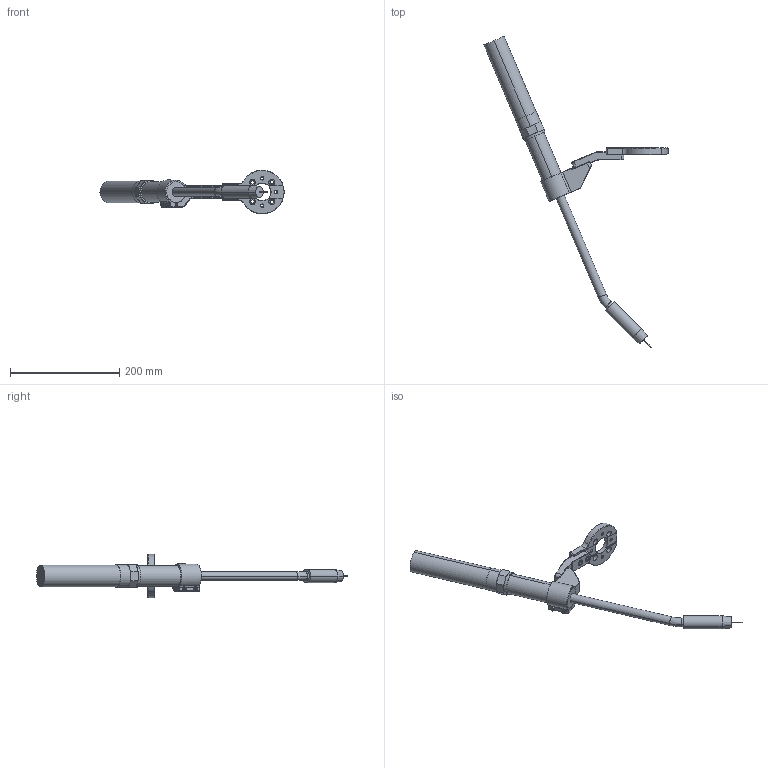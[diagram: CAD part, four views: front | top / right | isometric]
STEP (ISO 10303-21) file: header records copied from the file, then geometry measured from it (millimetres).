
FILE_DESCRIPTION (( 'STEP AP203' ), '1' );
FILE_NAME ('生态套件-智能焊接工装站-欧式焊枪.STEP', '2024-11-08T09:09:52', ( '' ), ( '' ), 'SwSTEP 2.0', 'SolidWorks 2018', '' );
FILE_SCHEMA (( 'CONFIG_CONTROL_DESIGN' ));
Length unit declared in the file: millimetre
Products named in the file (1): 生态套件-智能焊接工装站-欧式焊枪
Bounding box: 336.61 x 568.77 x 79.89 mm (x, y, z)
Surface area: 103555.4 mm2 (no closed solid volume)
Topology: 0 solids, 18 shells, 321 faces, 866 edges, 552 vertices
Faces by surface type: plane 136, cylinder 105, cone 76, bspline 2, torus 2
Entity records: 10303 total; most frequent: CARTESIAN_POINT 2075, DIRECTION 1801, ORIENTED_EDGE 1518, EDGE_CURVE 858, AXIS2_PLACEMENT_3D 648, VERTEX_POINT 552, VECTOR 505, LINE 505
